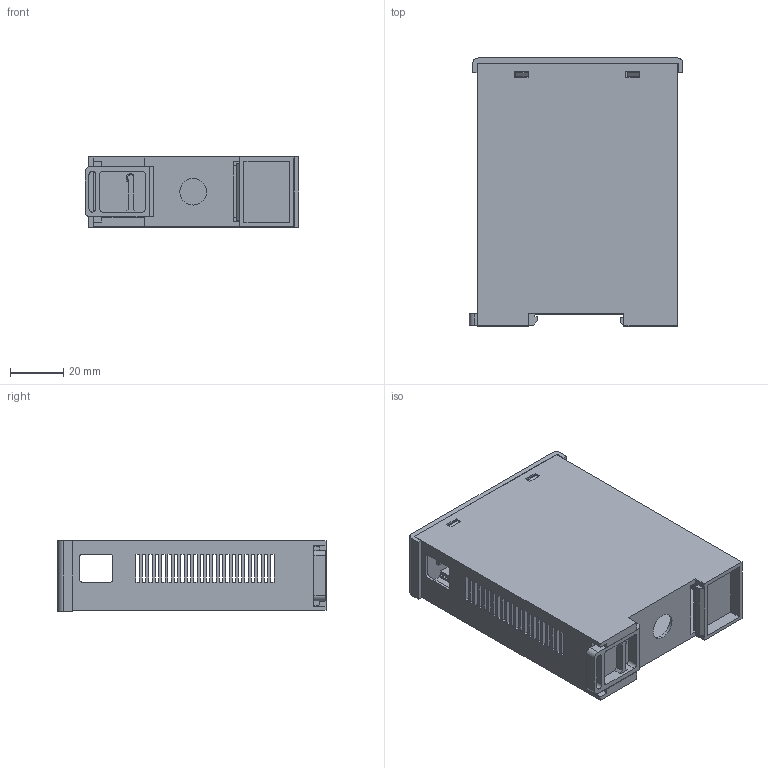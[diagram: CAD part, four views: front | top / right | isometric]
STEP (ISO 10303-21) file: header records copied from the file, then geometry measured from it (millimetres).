
FILE_DESCRIPTION (( 'STEP AP214' ), '1' );
FILE_NAME ('nbcxxx_type_B.STEP', '2022-02-25T11:23:03', ( '' ), ( '' ), 'SwSTEP 2.0', 'SolidWorks 2021', '' );
FILE_SCHEMA (( 'AUTOMOTIVE_DESIGN' ));
Length unit declared in the file: millimetre
Products named in the file (4): nbcxxx_type_B; 1NA1040000000; 1NA101050000; 1NA1020500000
Assembly tree (3 placements, depth 2):
  nbcxxx_type_B
    1NA101050000
    1NA1020500000
    1NA1040000000
Bounding box: 79.9 x 100.3 x 26.2 mm (x, y, z)
Volume: 37671.4 mm3; surface area: 49179.8 mm2
Topology: 3 solids, 3 shells, 404 faces, 1183 edges, 788 vertices
Faces by surface type: plane 375, cylinder 29
Entity records: 13561 total; most frequent: CARTESIAN_POINT 2381, ORIENTED_EDGE 2366, DIRECTION 2063, EDGE_CURVE 1183, VECTOR 1123, LINE 1123, VERTEX_POINT 788, EDGE_LOOP 525
